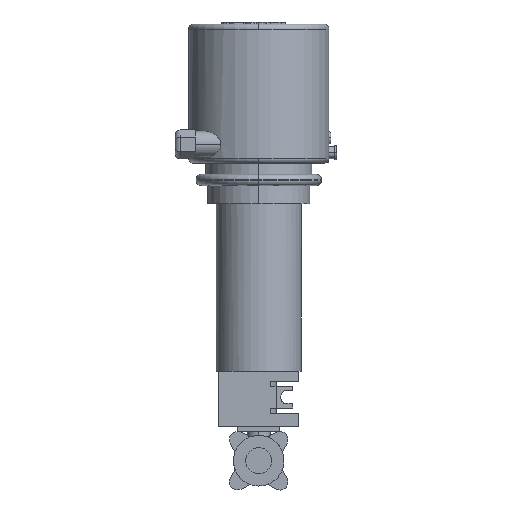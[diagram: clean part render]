
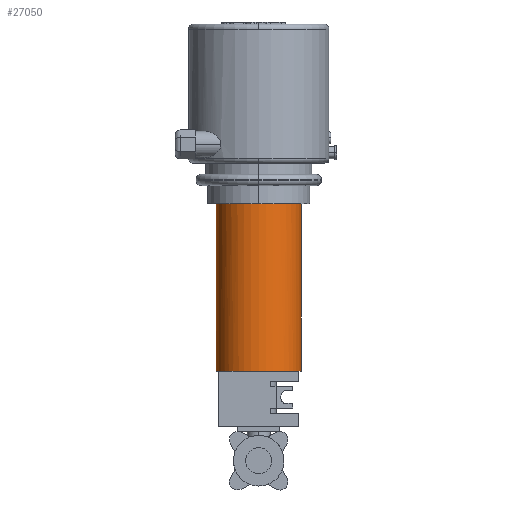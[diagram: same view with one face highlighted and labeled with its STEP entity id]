
A CAD part, left-side view. The second image highlights one B-rep face of the part: STEP entity #27050.
In plain terms, the highlighted cylindrical face has radius 42.5 mm (diameter 85 mm), a partial arc.
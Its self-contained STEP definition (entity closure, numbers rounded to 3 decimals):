
#15640=CARTESIAN_POINT('',(-2.639,-35.002,
-91.57));
#15650=VERTEX_POINT('',#15640);
#17770=CARTESIAN_POINT('',(-2.639,-91.57,
-35.002));
#17780=VERTEX_POINT('',#17770);
#24700=CARTESIAN_POINT('',(-17.,-63.286,
-63.286));
#24710=DIRECTION('',(0.,0.707,
0.707));
#24720=DIRECTION('',(0.,-0.707,
0.707));
#24730=AXIS2_PLACEMENT_3D('',#24700,#24710,#24720);
#24740=CIRCLE('',#24730,42.5);
#24750=CARTESIAN_POINT('',(23.,-53.131,
-73.441));
#24760=VERTEX_POINT('',#24750);
#24770=EDGE_CURVE('',#24760,#15650,#24740,.T.);
#25020=CARTESIAN_POINT('',(23.,-73.441,
-53.131));
#25030=VERTEX_POINT('',#25020);
#26440=EDGE_CURVE('',#17780,#25030,#24740,.T.);
#26630=CARTESIAN_POINT('',(-17.,-122.329,
-122.329));
#26640=DIRECTION('',(0.,0.707,
0.707));
#26650=DIRECTION('',(0.,-0.707,
0.707));
#26660=AXIS2_PLACEMENT_3D('',#26630,#26640,#26650);
#26670=CYLINDRICAL_SURFACE('',#26660,42.5);
#26680=ORIENTED_EDGE('',*,*,#26440,.F.);
#26690=EDGE_CURVE('',#25030,#24760,#24740,.T.);
#26700=ORIENTED_EDGE('',*,*,#26690,.F.);
#26710=ORIENTED_EDGE('',*,*,#24770,.F.);
#26720=CARTESIAN_POINT('',(-17.,-33.234,
-93.338));
#26730=VERTEX_POINT('',#26720);
#26740=EDGE_CURVE('',#15650,#26730,#24740,.T.);
#26750=ORIENTED_EDGE('',*,*,#26740,.F.);
#26760=CARTESIAN_POINT('',(-17.,-92.277,
-152.382));
#26770=DIRECTION('',(0.,0.707,
0.707));
#26780=VECTOR('',#26770,1.);
#26790=LINE('',#26760,#26780);
#26800=CARTESIAN_POINT('',(-17.,-151.321,
-211.425));
#26810=VERTEX_POINT('',#26800);
#26820=EDGE_CURVE('',#26810,#26730,#26790,.T.);
#26830=ORIENTED_EDGE('',*,*,#26820,.T.);
#26840=CARTESIAN_POINT('',(-17.,-181.373,
-181.373));
#26850=DIRECTION('',(0.,-0.707,
-0.707));
#26860=DIRECTION('',(0.,-0.707,
0.707));
#26870=AXIS2_PLACEMENT_3D('',#26840,#26850,#26860);
#26880=CIRCLE('',#26870,42.5);
#26890=CARTESIAN_POINT('',(-17.,-211.425,
-151.321));
#26900=VERTEX_POINT('',#26890);
#26910=EDGE_CURVE('',#26810,#26900,#26880,.T.);
#26920=ORIENTED_EDGE('',*,*,#26910,.F.);
#26930=CARTESIAN_POINT('',(-17.,-152.382,
-92.277));
#26940=DIRECTION('',(0.,0.707,
0.707));
#26950=VECTOR('',#26940,1.);
#26960=LINE('',#26930,#26950);
#26970=CARTESIAN_POINT('',(-17.,-93.338,
-33.234));
#26980=VERTEX_POINT('',#26970);
#26990=EDGE_CURVE('',#26900,#26980,#26960,.T.);
#27000=ORIENTED_EDGE('',*,*,#26990,.F.);
#27010=EDGE_CURVE('',#26980,#17780,#24740,.T.);
#27020=ORIENTED_EDGE('',*,*,#27010,.F.);
#27030=EDGE_LOOP('',(#27020,#27000,#26920,#26830,#26750,#26710,#26700,
#26680));
#27040=FACE_OUTER_BOUND('',#27030,.T.);
#27050=ADVANCED_FACE('',(#27040),#26670,.T.);
